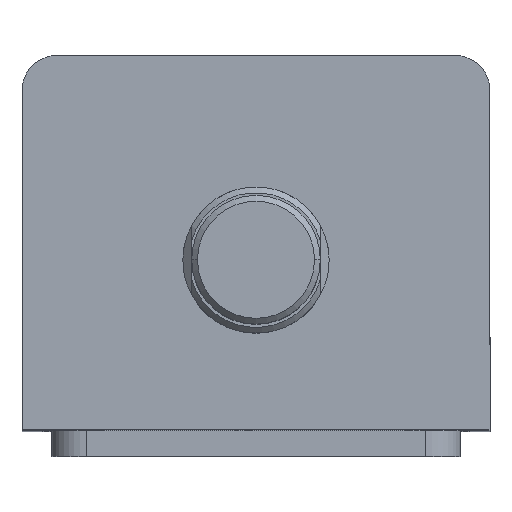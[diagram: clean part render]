
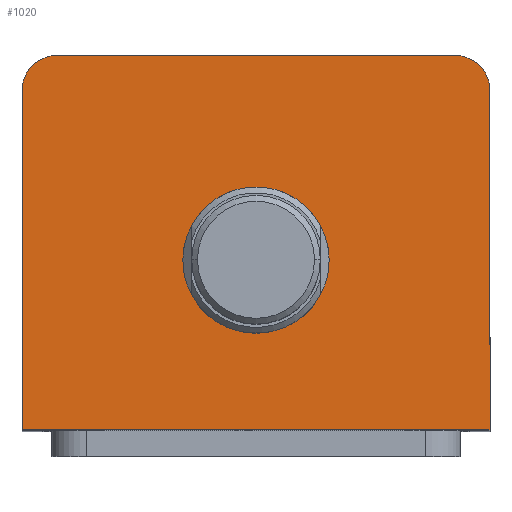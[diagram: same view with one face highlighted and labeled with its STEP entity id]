
A CAD part, top view. The second image highlights one B-rep face of the part: STEP entity #1020.
In plain terms, the highlighted planar face has unit normal (0, 0, 1).
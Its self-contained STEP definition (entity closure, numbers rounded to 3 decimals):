
#18 = CARTESIAN_POINT ( 'NONE',  ( -40., 26., 170. ) ) ;
#43 = CARTESIAN_POINT ( 'NONE',  ( -40., -32., 170. ) ) ;
#65 = CARTESIAN_POINT ( 'NONE',  ( -34., 32., 170. ) ) ;
#88 = CARTESIAN_POINT ( 'NONE',  ( 12.5, -3., 170. ) ) ;
#91 = CARTESIAN_POINT ( 'NONE',  ( -12.5, -3., 170. ) ) ;
#132 = CARTESIAN_POINT ( 'NONE',  ( 40., -32., 170. ) ) ;
#139 = CARTESIAN_POINT ( 'NONE',  ( 34., 32., 170. ) ) ;
#151 = CARTESIAN_POINT ( 'NONE',  ( 40., 26., 170. ) ) ;
#168 = EDGE_CURVE ( 'NONE', #2381, #2384, #2814, .T. ) ;
#222 = EDGE_CURVE ( 'NONE', #2358, #2346, #1704, .T. ) ;
#230 = EDGE_CURVE ( 'NONE', #2346, #2326, #1714, .T. ) ;
#302 = EDGE_CURVE ( 'NONE', #2472, #2358, #1804, .T. ) ;
#813 = DIRECTION ( 'NONE',  ( 1., 0., 0. ) ) ;
#814 = DIRECTION ( 'NONE',  ( 0., 0., 1. ) ) ;
#817 = CARTESIAN_POINT ( 'NONE',  ( 0., -3., 170. ) ) ;
#847 = DIRECTION ( 'NONE',  ( 1., 0., 0. ) ) ;
#864 = DIRECTION ( 'NONE',  ( 0., 0., 1. ) ) ;
#868 = DIRECTION ( 'NONE',  ( 0., 1., 0. ) ) ;
#883 = CARTESIAN_POINT ( 'NONE',  ( 40., 32., 170. ) ) ;
#919 = CARTESIAN_POINT ( 'NONE',  ( 34., 26., 170. ) ) ;
#1020 = ADVANCED_FACE ( 'NONE', ( #1842, #1848 ), #3609, .T. ) ;
#1160 = EDGE_LOOP ( 'NONE', ( #2520, #2522 ) ) ;
#1209 = EDGE_LOOP ( 'NONE', ( #2523, #2524, #2525, #2526, #2544, #2545 ) ) ;
#1311 = EDGE_CURVE ( 'NONE', #2329, #2472, #2112, .T. ) ;
#1315 = EDGE_CURVE ( 'NONE', #2323, #2329, #2128, .T. ) ;
#1342 = AXIS2_PLACEMENT_3D ( 'NONE', #817, #814, #813 ) ;
#1356 = AXIS2_PLACEMENT_3D ( 'NONE', #919, #864, #847 ) ;
#1393 = AXIS2_PLACEMENT_3D ( 'NONE', #3619, #3606, #3605 ) ;
#1532 = AXIS2_PLACEMENT_3D ( 'NONE', #3137, #3136, #3135 ) ;
#1560 = AXIS2_PLACEMENT_3D ( 'NONE', #3799, #3453, #3798 ) ;
#1704 = LINE ( 'NONE', #883, #1707 ) ;
#1707 = VECTOR ( 'NONE', #868, 1000. ) ;
#1714 = CIRCLE ( 'NONE', #1356, 6. ) ;
#1804 = LINE ( 'NONE', #3703, #1807 ) ;
#1807 = VECTOR ( 'NONE', #3702, 1000. ) ;
#1842 = FACE_BOUND ( 'NONE', #1160, .T. ) ;
#1848 = FACE_OUTER_BOUND ( 'NONE', #1209, .T. ) ;
#2112 = LINE ( 'NONE', #3172, #2123 ) ;
#2123 = VECTOR ( 'NONE', #3153, 1000. ) ;
#2128 = CIRCLE ( 'NONE', #1532, 6. ) ;
#2196 = CIRCLE ( 'NONE', #1560, 12.5 ) ;
#2216 = LINE ( 'NONE', #3780, #2219 ) ;
#2219 = VECTOR ( 'NONE', #3779, 1000. ) ;
#2323 = VERTEX_POINT ( 'NONE', #65 ) ;
#2326 = VERTEX_POINT ( 'NONE', #139 ) ;
#2329 = VERTEX_POINT ( 'NONE', #18 ) ;
#2346 = VERTEX_POINT ( 'NONE', #151 ) ;
#2358 = VERTEX_POINT ( 'NONE', #132 ) ;
#2381 = VERTEX_POINT ( 'NONE', #91 ) ;
#2384 = VERTEX_POINT ( 'NONE', #88 ) ;
#2472 = VERTEX_POINT ( 'NONE', #43 ) ;
#2520 = ORIENTED_EDGE ( 'NONE', *, *, #2983, .F. ) ;
#2522 = ORIENTED_EDGE ( 'NONE', *, *, #168, .F. ) ;
#2523 = ORIENTED_EDGE ( 'NONE', *, *, #3060, .T. ) ;
#2524 = ORIENTED_EDGE ( 'NONE', *, *, #1315, .T. ) ;
#2525 = ORIENTED_EDGE ( 'NONE', *, *, #1311, .T. ) ;
#2526 = ORIENTED_EDGE ( 'NONE', *, *, #302, .T. ) ;
#2544 = ORIENTED_EDGE ( 'NONE', *, *, #222, .T. ) ;
#2545 = ORIENTED_EDGE ( 'NONE', *, *, #230, .T. ) ;
#2814 = CIRCLE ( 'NONE', #1342, 12.5 ) ;
#2983 = EDGE_CURVE ( 'NONE', #2384, #2381, #2196, .T. ) ;
#3060 = EDGE_CURVE ( 'NONE', #2326, #2323, #2216, .T. ) ;
#3135 = DIRECTION ( 'NONE',  ( 1., 0., 0. ) ) ;
#3136 = DIRECTION ( 'NONE',  ( 0., 0., 1. ) ) ;
#3137 = CARTESIAN_POINT ( 'NONE',  ( -34., 26., 170. ) ) ;
#3153 = DIRECTION ( 'NONE',  ( 0., -1., 0. ) ) ;
#3172 = CARTESIAN_POINT ( 'NONE',  ( -40., 32., 170. ) ) ;
#3453 = DIRECTION ( 'NONE',  ( 0., 0., 1. ) ) ;
#3605 = DIRECTION ( 'NONE',  ( 1., 0., 0. ) ) ;
#3606 = DIRECTION ( 'NONE',  ( 0., 0., 1. ) ) ;
#3609 = PLANE ( 'NONE',  #1393 ) ;
#3619 = CARTESIAN_POINT ( 'NONE',  ( 0., 0., 170. ) ) ;
#3702 = DIRECTION ( 'NONE',  ( 1., 0., 0. ) ) ;
#3703 = CARTESIAN_POINT ( 'NONE',  ( -40., -32., 170. ) ) ;
#3779 = DIRECTION ( 'NONE',  ( -1., 0., 0. ) ) ;
#3780 = CARTESIAN_POINT ( 'NONE',  ( -40., 32., 170. ) ) ;
#3798 = DIRECTION ( 'NONE',  ( 1., 0., 0. ) ) ;
#3799 = CARTESIAN_POINT ( 'NONE',  ( 0., -3., 170. ) ) ;
